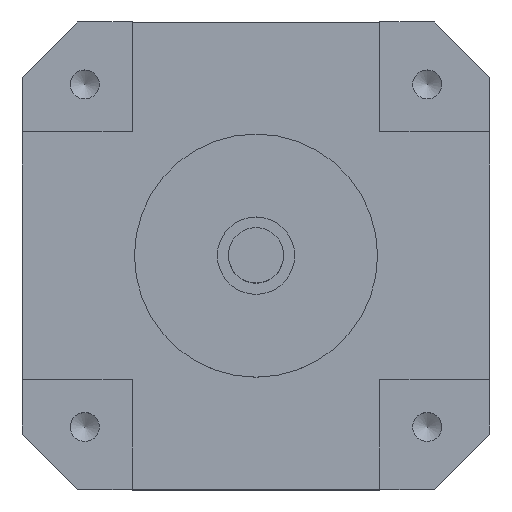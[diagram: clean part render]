
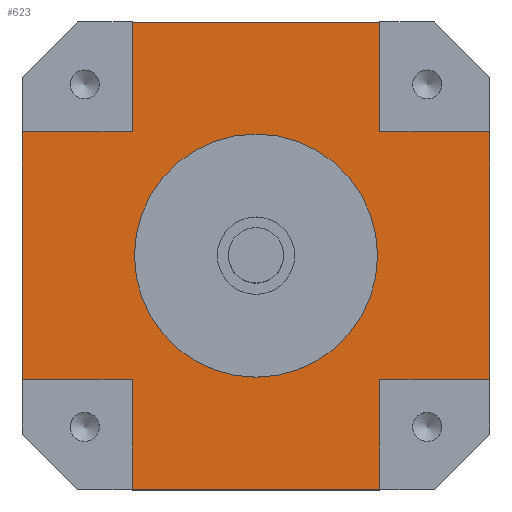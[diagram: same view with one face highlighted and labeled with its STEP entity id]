
A CAD part, top view. The second image highlights one B-rep face of the part: STEP entity #623.
In plain terms, the highlighted planar face has unit normal (0, 0, 1).
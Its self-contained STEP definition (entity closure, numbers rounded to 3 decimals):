
#623=ADVANCED_FACE('',(#2311,#2313),#2315,.T.);
#2311=FACE_BOUND('',#2312,.T.);
#2312=EDGE_LOOP('',(#3844,#3845,#3846,#3847,#3848,#3849,#3850,#3851,#3852,#3853,
#3854,#3855));
#2313=FACE_BOUND('',#2314,.T.);
#2314=EDGE_LOOP('',(#3856));
#2315=PLANE('',#2316);
#2316=AXIS2_PLACEMENT_3D('',#2317,#2318,#2319);
#2317=CARTESIAN_POINT('',(0.,0.,33.2));
#2318=DIRECTION('',(0.,0.,1.));
#2319=DIRECTION('',(1.,0.,0.));
#3844=ORIENTED_EDGE('',*,*,#4608,.F.);
#3845=ORIENTED_EDGE('',*,*,#4670,.T.);
#3846=ORIENTED_EDGE('',*,*,#4671,.T.);
#3847=ORIENTED_EDGE('',*,*,#4578,.F.);
#3848=ORIENTED_EDGE('',*,*,#4672,.T.);
#3849=ORIENTED_EDGE('',*,*,#4673,.T.);
#3850=ORIENTED_EDGE('',*,*,#4570,.F.);
#3851=ORIENTED_EDGE('',*,*,#4674,.T.);
#3852=ORIENTED_EDGE('',*,*,#4675,.T.);
#3853=ORIENTED_EDGE('',*,*,#4554,.F.);
#3854=ORIENTED_EDGE('',*,*,#4669,.T.);
#3855=ORIENTED_EDGE('',*,*,#4676,.T.);
#3856=ORIENTED_EDGE('',*,*,#4677,.F.);
#4554=EDGE_CURVE('',#5038,#5040,#5041,.T.);
#4570=EDGE_CURVE('',#5066,#5068,#5069,.T.);
#4578=EDGE_CURVE('',#5080,#5082,#5083,.T.);
#4608=EDGE_CURVE('',#5134,#5136,#5137,.T.);
#4669=EDGE_CURVE('',#5038,#5232,#5234,.T.);
#4670=EDGE_CURVE('',#5134,#5235,#5236,.T.);
#4671=EDGE_CURVE('',#5235,#5082,#5237,.T.);
#4672=EDGE_CURVE('',#5080,#5238,#5239,.T.);
#4673=EDGE_CURVE('',#5238,#5068,#5240,.T.);
#4674=EDGE_CURVE('',#5066,#5241,#5242,.T.);
#4675=EDGE_CURVE('',#5241,#5040,#5243,.T.);
#4676=EDGE_CURVE('',#5232,#5136,#5244,.T.);
#4677=EDGE_CURVE('',#5245,#5245,#5246,.T.);
#5038=VERTEX_POINT('',#5872);
#5040=VERTEX_POINT('',#5876);
#5041=LINE('',#5877,#5878);
#5066=VERTEX_POINT('',#5932);
#5068=VERTEX_POINT('',#5936);
#5069=LINE('',#5937,#5938);
#5080=VERTEX_POINT('',#5962);
#5082=VERTEX_POINT('',#5966);
#5083=LINE('',#5967,#5968);
#5134=VERTEX_POINT('',#6076);
#5136=VERTEX_POINT('',#6080);
#5137=LINE('',#6081,#6082);
#5232=VERTEX_POINT('',#6318);
#5234=LINE('',#6322,#6323);
#5235=VERTEX_POINT('',#6325);
#5236=LINE('',#6326,#6327);
#5237=LINE('',#6329,#6330);
#5238=VERTEX_POINT('',#6332);
#5239=LINE('',#6333,#6334);
#5240=LINE('',#6336,#6337);
#5241=VERTEX_POINT('',#6339);
#5242=LINE('',#6340,#6341);
#5243=LINE('',#6343,#6344);
#5244=LINE('',#6346,#6347);
#5245=VERTEX_POINT('',#6349);
#5246=CIRCLE('',#6350,11.);
#5872=CARTESIAN_POINT('',(11.2,-21.15,33.2));
#5876=CARTESIAN_POINT('',(-11.2,-21.15,33.2));
#5877=CARTESIAN_POINT('',(11.2,-21.15,33.2));
#5878=VECTOR('',#5879,1.);
#5879=DIRECTION('',(-1.,0.,0.));
#5932=CARTESIAN_POINT('',(-21.15,-11.2,33.2));
#5936=CARTESIAN_POINT('',(-21.15,11.2,33.2));
#5937=CARTESIAN_POINT('',(-21.15,-11.2,33.2));
#5938=VECTOR('',#5939,1.);
#5939=DIRECTION('',(0.,1.,0.));
#5962=CARTESIAN_POINT('',(-11.2,21.15,33.2));
#5966=CARTESIAN_POINT('',(11.2,21.15,33.2));
#5967=CARTESIAN_POINT('',(-11.2,21.15,33.2));
#5968=VECTOR('',#5969,1.);
#5969=DIRECTION('',(1.,0.,0.));
#6076=CARTESIAN_POINT('',(21.15,11.2,33.2));
#6080=CARTESIAN_POINT('',(21.15,-11.2,33.2));
#6081=CARTESIAN_POINT('',(21.15,11.2,33.2));
#6082=VECTOR('',#6083,1.);
#6083=DIRECTION('',(0.,-1.,0.));
#6318=CARTESIAN_POINT('',(11.2,-11.2,33.2));
#6322=CARTESIAN_POINT('',(11.2,-21.15,33.2));
#6323=VECTOR('',#6324,1.);
#6324=DIRECTION('',(0.,1.,0.));
#6325=CARTESIAN_POINT('',(11.2,11.2,33.2));
#6326=CARTESIAN_POINT('',(21.15,11.2,33.2));
#6327=VECTOR('',#6328,1.);
#6328=DIRECTION('',(-1.,0.,0.));
#6329=CARTESIAN_POINT('',(11.2,11.2,33.2));
#6330=VECTOR('',#6331,1.);
#6331=DIRECTION('',(0.,1.,0.));
#6332=CARTESIAN_POINT('',(-11.2,11.2,33.2));
#6333=CARTESIAN_POINT('',(-11.2,21.15,33.2));
#6334=VECTOR('',#6335,1.);
#6335=DIRECTION('',(0.,-1.,0.));
#6336=CARTESIAN_POINT('',(-11.2,11.2,33.2));
#6337=VECTOR('',#6338,1.);
#6338=DIRECTION('',(-1.,0.,0.));
#6339=CARTESIAN_POINT('',(-11.2,-11.2,33.2));
#6340=CARTESIAN_POINT('',(-21.15,-11.2,33.2));
#6341=VECTOR('',#6342,1.);
#6342=DIRECTION('',(1.,0.,0.));
#6343=CARTESIAN_POINT('',(-11.2,-11.2,33.2));
#6344=VECTOR('',#6345,1.);
#6345=DIRECTION('',(0.,-1.,0.));
#6346=CARTESIAN_POINT('',(11.2,-11.2,33.2));
#6347=VECTOR('',#6348,1.);
#6348=DIRECTION('',(1.,0.,0.));
#6349=CARTESIAN_POINT('',(11.,0.,33.2));
#6350=AXIS2_PLACEMENT_3D('',#6351,#6352,#6353);
#6351=CARTESIAN_POINT('',(0.,0.,33.2));
#6352=DIRECTION('',(0.,0.,1.));
#6353=DIRECTION('',(1.,0.,0.));
